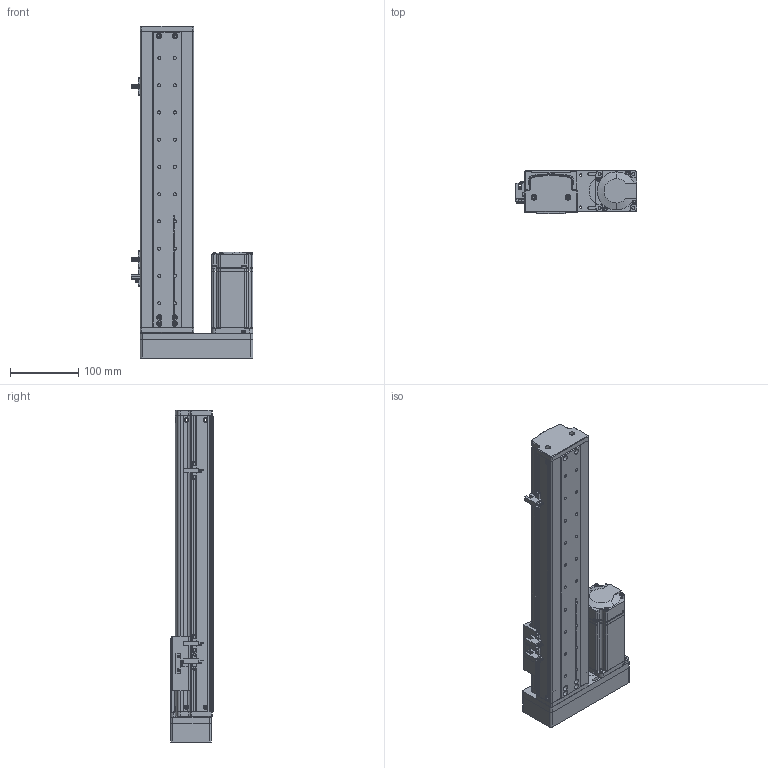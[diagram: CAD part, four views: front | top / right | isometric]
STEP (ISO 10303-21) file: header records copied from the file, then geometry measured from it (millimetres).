
FILE_DESCRIPTION (( 'STEP AP214' ), '1' );
FILE_NAME ('KSD75S-S280-ML-CM.STEP', '2019-10-18T06:55:20', ( '微软用户' ), ( '微软中国' ), 'SwSTEP 2.0', 'SolidWorks 2014', '' );
FILE_SCHEMA (( 'AUTOMOTIVE_DESIGN' ));
Length unit declared in the file: millimetre
Products named in the file (13): 覜茼え100遵圉猾敕; MHMD042G1CA_2_03; 75宽模组保护罩左右折; 75宽马达安装板连板左右折丝杆; 280俴最; KSD75S-S280-ML-CM; MGW15H賑寢280俴最 ; 75遵賑雄釱; 75遵耀郪耜啣-280俴最; 綴傷啣 ; ヶ傷啣; 75裔啣-280俴最; U倰嫖萇EEㄜSX672
Assembly tree (15 placements, depth 3):
  KSD75S-S280-ML-CM
    MGW15H賑寢280俴最 
      280俴最
    75遵賑雄釱
    75遵耀郪耜啣-280俴最  x2
    75裔啣-280俴最
    ヶ傷啣
    綴傷啣 
    U倰嫖萇EEㄜSX672  x3
    覜茼え100遵圉猾敕
    75宽马达安装板连板左右折丝杆
    75宽模组保护罩左右折
    MHMD042G1CA_2_03
Bounding box: 178.7 x 63 x 487.5 mm (x, y, z)
Volume: 724251.1 mm3; surface area: 454493 mm2
Topology: 13 solids, 14 shells, 1433 faces, 4066 edges, 2653 vertices
Faces by surface type: cylinder 667, plane 619, cone 129, bspline 18
Entity records: 45994 total; most frequent: CARTESIAN_POINT 8768, DIRECTION 6824, ORIENTED_EDGE 6412, EDGE_CURVE 3277, AXIS2_PLACEMENT_3D 2488, VERTEX_POINT 2171, VECTOR 1848, LINE 1848
